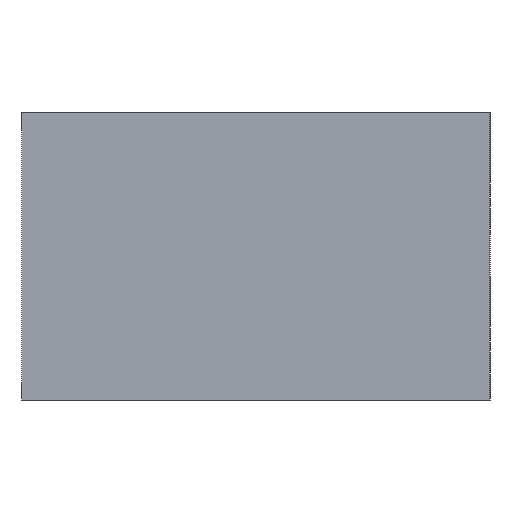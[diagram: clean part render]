
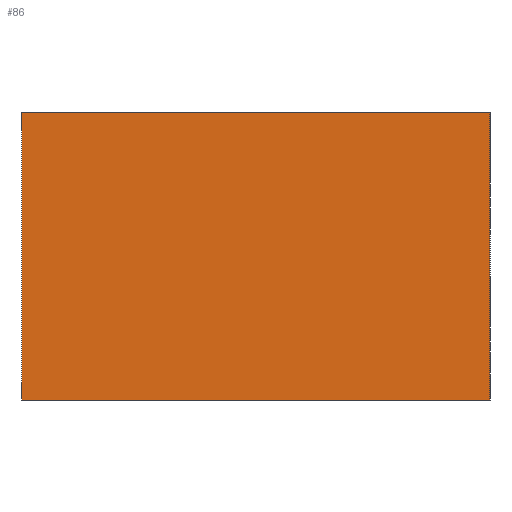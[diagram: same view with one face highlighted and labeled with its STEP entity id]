
A CAD part, left-side view. The second image highlights one B-rep face of the part: STEP entity #86.
In plain terms, the highlighted planar face has unit normal (-1, 0, 0).
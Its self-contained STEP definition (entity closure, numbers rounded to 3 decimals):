
#80=FACE_OUTER_BOUND('',#307,.T.);
#86=ADVANCED_FACE('',(#80),#137,.T.);
#137=PLANE('',#714);
#152=LINE('',#1017,#164);
#156=LINE('',#1040,#168);
#159=LINE('',#1050,#171);
#163=LINE('',#1066,#175);
#164=VECTOR('',#802,1.);
#168=VECTOR('',#822,1.);
#171=VECTOR('',#831,1.);
#175=VECTOR('',#847,1.);
#307=EDGE_LOOP('',(#428,#429,#430,#431));
#428=ORIENTED_EDGE('',*,*,#594,.T.);
#429=ORIENTED_EDGE('',*,*,#607,.T.);
#430=ORIENTED_EDGE('',*,*,#599,.T.);
#431=ORIENTED_EDGE('',*,*,#583,.F.);
#519=VERTEX_POINT('',#1018);
#520=VERTEX_POINT('',#1019);
#530=VERTEX_POINT('',#1041);
#534=VERTEX_POINT('',#1051);
#583=EDGE_CURVE('',#519,#520,#152,.T.);
#594=EDGE_CURVE('',#519,#530,#156,.T.);
#599=EDGE_CURVE('',#534,#520,#159,.T.);
#607=EDGE_CURVE('',#530,#534,#163,.T.);
#714=AXIS2_PLACEMENT_3D('',#1068,#850,#851);
#802=DIRECTION('',(0.,0.,-1.));
#822=DIRECTION('',(0.,1.,0.));
#831=DIRECTION('',(0.,-1.,0.));
#847=DIRECTION('',(0.,0.,-1.));
#850=DIRECTION('',(-1.,0.,0.));
#851=DIRECTION('',(0.,0.,1.));
#1017=CARTESIAN_POINT('',(-42.5,-32.5,0.));
#1018=CARTESIAN_POINT('',(-42.5,-32.5,0.));
#1019=CARTESIAN_POINT('',(-42.5,-32.5,-40.));
#1040=CARTESIAN_POINT('',(-42.5,0.,0.));
#1041=CARTESIAN_POINT('',(-42.5,32.5,0.));
#1050=CARTESIAN_POINT('',(-42.5,0.,-40.));
#1051=CARTESIAN_POINT('',(-42.5,32.5,-40.));
#1066=CARTESIAN_POINT('',(-42.5,32.5,0.));
#1068=CARTESIAN_POINT('',(-42.5,0.,0.));
